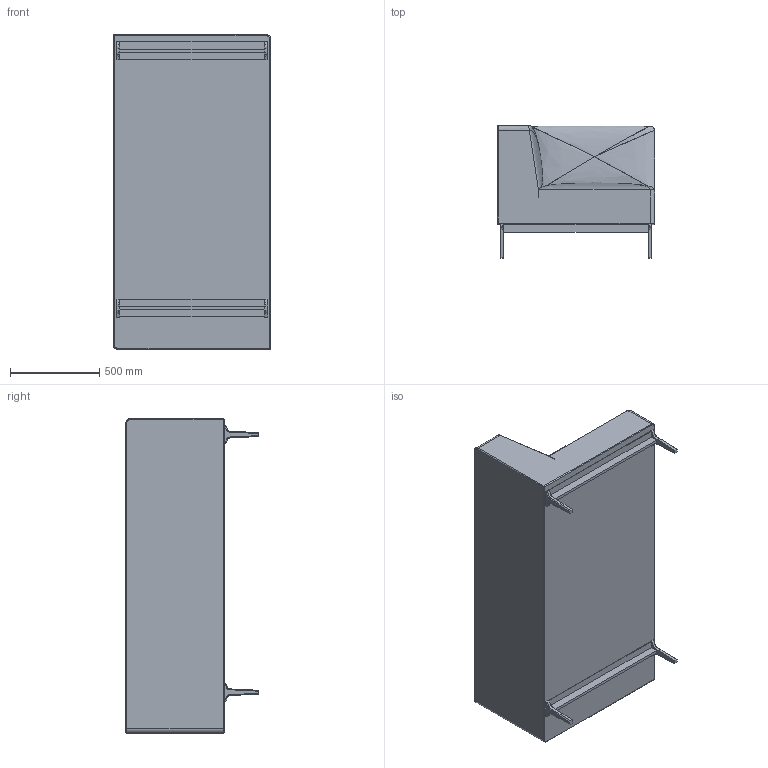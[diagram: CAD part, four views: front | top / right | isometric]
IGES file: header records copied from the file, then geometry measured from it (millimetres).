
Start section: SolidWorks IGES file using analytic representation for surfaces
Global section: file name: D:\Box Sync\Matthew Hilton\403 Planalto Sofa\sales related\SW\403L Planalto Sofa\403LR Planalto Sofa.IGS; native system: SolidWorks 2016; preprocessor: SolidWorks 2016; author: kumag; date: 180221.155816; units: millimetre
Bounding box: 880 x 740.2 x 1760 mm (x, y, z)
Surface area: 6597812.5 mm2 (no closed solid volume)
Topology: 0 solids, 0 shells, 133 faces, 959 edges, 943 vertices
Faces by surface type: bspline 102, revolution 31
